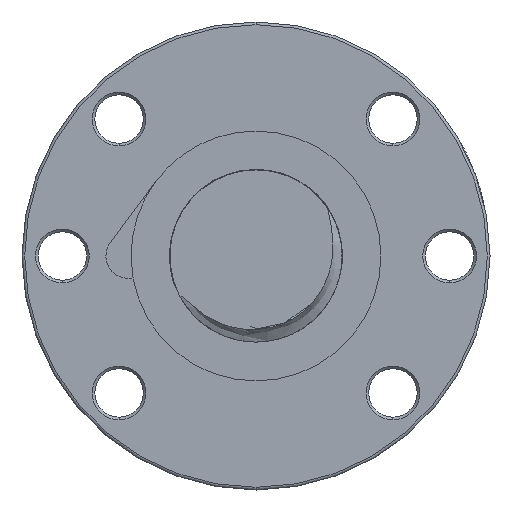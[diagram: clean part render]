
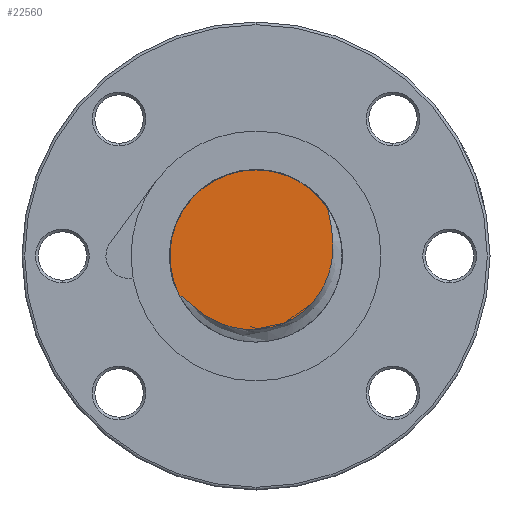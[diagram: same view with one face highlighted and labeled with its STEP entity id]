
A CAD part, left-side view. The second image highlights one B-rep face of the part: STEP entity #22560.
In plain terms, the highlighted planar face has unit normal (-1, 0, 0).
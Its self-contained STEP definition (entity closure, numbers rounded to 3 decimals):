
#12462 = CARTESIAN_POINT ( 'NONE',  ( -232., -13.336, 8.84 ) ) ;
#12464 = DIRECTION ( 'NONE',  ( 0., 1., 0. ) ) ;
#12466 = DIRECTION ( 'NONE',  ( 1., 0., 0. ) ) ;
#12468 = AXIS2_PLACEMENT_3D ( 'NONE', #12481, #12466, #12464 ) ;
#12470 = CIRCLE ( 'NONE', #12468, 16. ) ;
#12481 = CARTESIAN_POINT ( 'NONE',  ( -232., 0., 0. ) ) ;
#17256 = CARTESIAN_POINT ( 'NONE',  ( -232., -13.336, 8.84 ) ) ;
#17257 = CARTESIAN_POINT ( 'NONE',  ( -232., -13.36, 8.597 ) ) ;
#17258 = CARTESIAN_POINT ( 'NONE',  ( -232., -13.403, 8.356 ) ) ;
#17259 = CARTESIAN_POINT ( 'NONE',  ( -232., -13.495, 7.876 ) ) ;
#17260 = CARTESIAN_POINT ( 'NONE',  ( -232., -13.546, 7.637 ) ) ;
#17291 = CARTESIAN_POINT ( 'NONE',  ( -232., 14.324, -7.129 ) ) ;
#17292 = B_SPLINE_CURVE_WITH_KNOTS ( 'NONE', 3,
 ( #17291, #17355, #17354, #17353, #17352, #17351, #17350, #17349, #17348, #17347, #17346, #17345, #17344, #17343, #17342, #17341, #17340, #17339, #17338, #17337, #17336, #17335, #17334, #17333, #17332, #17331, #17330, #17329, #17328, #17327, #17326, #17325, #17324, #17323, #17322, #17321, #17320, #17319, #17318, #17317, #17316, #17315, #17314, #17313, #17312, #17311, #17310, #17309, #17308, #17307, #17306, #17260, #17259, #17258, #17257, #17256 ),
 .UNSPECIFIED., .F., .F.,
 ( 4, 2, 2, 2, 2, 2, 2, 2, 2, 2, 2, 2, 2, 2, 2, 2, 2, 2, 2, 2, 2, 2, 2, 2, 2, 2, 2, 4 ),
 ( 0.012, 0.013, 0.014, 0.015, 0.017, 0.018, 0.021, 0.022, 0.024, 0.027, 0.028, 0.029, 0.032, 0.034, 0.035, 0.038, 0.039, 0.041, 0.044, 0.045, 0.047, 0.048, 0.049, 0.052, 0.055, 0.057, 0.057, 0.058 ),
 .UNSPECIFIED. ) ;
#17296 = FACE_OUTER_BOUND ( 'NONE', #22563, .T. ) ;
#17298 = DIRECTION ( 'NONE',  ( 0., 0., -1. ) ) ;
#17299 = DIRECTION ( 'NONE',  ( 1., 0., 0. ) ) ;
#17300 = CARTESIAN_POINT ( 'NONE',  ( -232., 0., 0. ) ) ;
#17301 = AXIS2_PLACEMENT_3D ( 'NONE', #17300, #17299, #17298 ) ;
#17302 = PLANE ( 'NONE',  #17301 ) ;
#17306 = CARTESIAN_POINT ( 'NONE',  ( -232., -13.7, 6.92 ) ) ;
#17307 = CARTESIAN_POINT ( 'NONE',  ( -232., -13.804, 6.442 ) ) ;
#17308 = CARTESIAN_POINT ( 'NONE',  ( -232., -14.08, 5.001 ) ) ;
#17309 = CARTESIAN_POINT ( 'NONE',  ( -232., -14.218, 4.031 ) ) ;
#17310 = CARTESIAN_POINT ( 'NONE',  ( -232., -14.343, 2.092 ) ) ;
#17311 = CARTESIAN_POINT ( 'NONE',  ( -232., -14.333, 1.122 ) ) ;
#17312 = CARTESIAN_POINT ( 'NONE',  ( -232., -14.189, -0.337 ) ) ;
#17313 = CARTESIAN_POINT ( 'NONE',  ( -232., -14.12, -0.824 ) ) ;
#17314 = CARTESIAN_POINT ( 'NONE',  ( -232., -13.941, -1.781 ) ) ;
#17315 = CARTESIAN_POINT ( 'NONE',  ( -232., -13.83, -2.254 ) ) ;
#17316 = CARTESIAN_POINT ( 'NONE',  ( -232., -13.566, -3.186 ) ) ;
#17317 = CARTESIAN_POINT ( 'NONE',  ( -232., -13.413, -3.646 ) ) ;
#17318 = CARTESIAN_POINT ( 'NONE',  ( -232., -13.063, -4.553 ) ) ;
#17319 = CARTESIAN_POINT ( 'NONE',  ( -232., -12.865, -5.002 ) ) ;
#17320 = CARTESIAN_POINT ( 'NONE',  ( -232., -12.208, -6.316 ) ) ;
#17321 = CARTESIAN_POINT ( 'NONE',  ( -232., -11.694, -7.139 ) ) ;
#17322 = CARTESIAN_POINT ( 'NONE',  ( -232., -10.807, -8.291 ) ) ;
#17323 = CARTESIAN_POINT ( 'NONE',  ( -232., -10.492, -8.662 ) ) ;
#17324 = CARTESIAN_POINT ( 'NONE',  ( -232., -9.823, -9.376 ) ) ;
#17325 = CARTESIAN_POINT ( 'NONE',  ( -232., -9.469, -9.717 ) ) ;
#17326 = CARTESIAN_POINT ( 'NONE',  ( -232., -8.371, -10.678 ) ) ;
#17327 = CARTESIAN_POINT ( 'NONE',  ( -232., -7.584, -11.241 ) ) ;
#17328 = CARTESIAN_POINT ( 'NONE',  ( -232., -6.318, -11.968 ) ) ;
#17329 = CARTESIAN_POINT ( 'NONE',  ( -232., -5.88, -12.192 ) ) ;
#17330 = CARTESIAN_POINT ( 'NONE',  ( -232., -4.989, -12.593 ) ) ;
#17331 = CARTESIAN_POINT ( 'NONE',  ( -232., -4.536, -12.77 ) ) ;
#17332 = CARTESIAN_POINT ( 'NONE',  ( -232., -3.16, -13.232 ) ) ;
#17333 = CARTESIAN_POINT ( 'NONE',  ( -232., -2.216, -13.449 ) ) ;
#17334 = CARTESIAN_POINT ( 'NONE',  ( -232., -0.762, -13.638 ) ) ;
#17335 = CARTESIAN_POINT ( 'NONE',  ( -232., -0.272, -13.677 ) ) ;
#17336 = CARTESIAN_POINT ( 'NONE',  ( -232., 0.699, -13.707 ) ) ;
#17337 = CARTESIAN_POINT ( 'NONE',  ( -232., 1.181, -13.699 ) ) ;
#17338 = CARTESIAN_POINT ( 'NONE',  ( -232., 2.623, -13.607 ) ) ;
#17339 = CARTESIAN_POINT ( 'NONE',  ( -232., 3.576, -13.457 ) ) ;
#17340 = CARTESIAN_POINT ( 'NONE',  ( -232., 4.991, -13.096 ) ) ;
#17341 = CARTESIAN_POINT ( 'NONE',  ( -232., 5.462, -12.952 ) ) ;
#17342 = CARTESIAN_POINT ( 'NONE',  ( -232., 6.38, -12.627 ) ) ;
#17343 = CARTESIAN_POINT ( 'NONE',  ( -232., 6.829, -12.446 ) ) ;
#17344 = CARTESIAN_POINT ( 'NONE',  ( -232., 8.147, -11.846 ) ) ;
#17345 = CARTESIAN_POINT ( 'NONE',  ( -232., 8.988, -11.372 ) ) ;
#17346 = CARTESIAN_POINT ( 'NONE',  ( -232., 10.199, -10.564 ) ) ;
#17347 = CARTESIAN_POINT ( 'NONE',  ( -232., 10.596, -10.278 ) ) ;
#17348 = CARTESIAN_POINT ( 'NONE',  ( -232., 11.369, -9.68 ) ) ;
#17349 = CARTESIAN_POINT ( 'NONE',  ( -232., 11.745, -9.369 ) ) ;
#17350 = CARTESIAN_POINT ( 'NONE',  ( -232., 12.484, -8.73 ) ) ;
#17351 = CARTESIAN_POINT ( 'NONE',  ( -232., 12.846, -8.402 ) ) ;
#17352 = CARTESIAN_POINT ( 'NONE',  ( -232., 13.389, -7.911 ) ) ;
#17353 = CARTESIAN_POINT ( 'NONE',  ( -232., 13.57, -7.747 ) ) ;
#17354 = CARTESIAN_POINT ( 'NONE',  ( -232., 13.939, -7.428 ) ) ;
#17355 = CARTESIAN_POINT ( 'NONE',  ( -232., 14.127, -7.271 ) ) ;
#21289 = EDGE_CURVE ( 'NONE', #21291, #21293, #22777, .T. ) ;
#21291 = VERTEX_POINT ( 'NONE', #22778 ) ;
#21293 = VERTEX_POINT ( 'NONE', #22768 ) ;
#21616 = EDGE_CURVE ( 'NONE', #21293, #21618, #12470, .T. ) ;
#21618 = VERTEX_POINT ( 'NONE', #12462 ) ;
#22560 = ADVANCED_FACE ( 'NONE', ( #17296 ), #17302, .F. ) ;
#22563 = EDGE_LOOP ( 'NONE', ( #22572, #22574, #22578 ) ) ;
#22572 = ORIENTED_EDGE ( 'NONE', *, *, #21289, .F. ) ;
#22574 = ORIENTED_EDGE ( 'NONE', *, *, #22576, .T. ) ;
#22576 = EDGE_CURVE ( 'NONE', #21291, #21618, #17292, .T. ) ;
#22578 = ORIENTED_EDGE ( 'NONE', *, *, #21616, .F. ) ;
#22768 = CARTESIAN_POINT ( 'NONE',  ( -232., 0., 16. ) ) ;
#22771 = DIRECTION ( 'NONE',  ( 0., 1., 0. ) ) ;
#22773 = DIRECTION ( 'NONE',  ( 1., 0., 0. ) ) ;
#22774 = CARTESIAN_POINT ( 'NONE',  ( -232., 0., 0. ) ) ;
#22776 = AXIS2_PLACEMENT_3D ( 'NONE', #22774, #22773, #22771 ) ;
#22777 = CIRCLE ( 'NONE', #22776, 16. ) ;
#22778 = CARTESIAN_POINT ( 'NONE',  ( -232., 14.324, -7.129 ) ) ;
